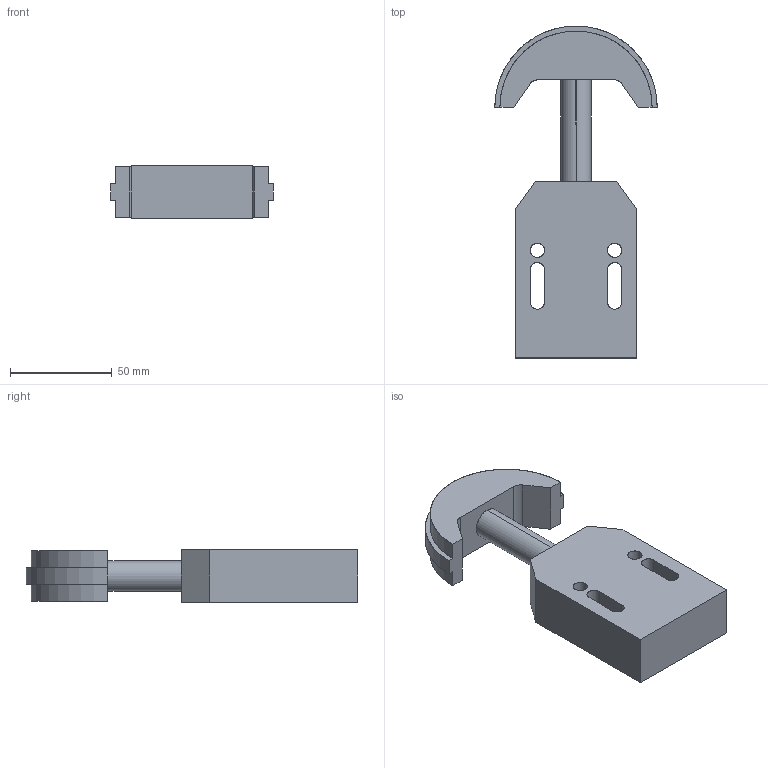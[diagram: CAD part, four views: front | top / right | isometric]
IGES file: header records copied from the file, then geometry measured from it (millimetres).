
Start section: SolidWorks IGES file using analytic representation for surfaces
Global section: file name: C:\Documents and Settings\URETIM3\Desktop\yeni katalog tolgay düzenli\E kataloðu\PNÖMATÝK ZÝNCÝR GERGÝSÝ\ALPOLEN 1000 KIRMIZI\207 GKR 101.IGS; native system: SolidWorks 2006 by SolidWorks Corporation; preprocessor: SolidWorks 2006 by SolidWorks Corporation; author: URETIM3; date: 060912.163303; units: millimetre
Bounding box: 80 x 163.5 x 26 mm (x, y, z)
Surface area: 31530.1 mm2 (no closed solid volume)
Topology: 0 solids, 0 shells, 36 faces, 690 edges, 690 vertices
Faces by surface type: bspline 21, revolution 15
